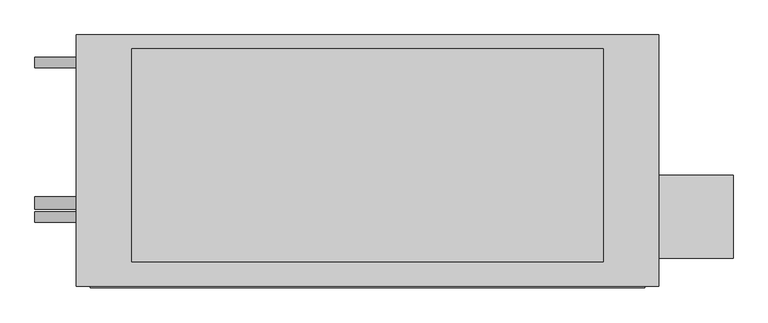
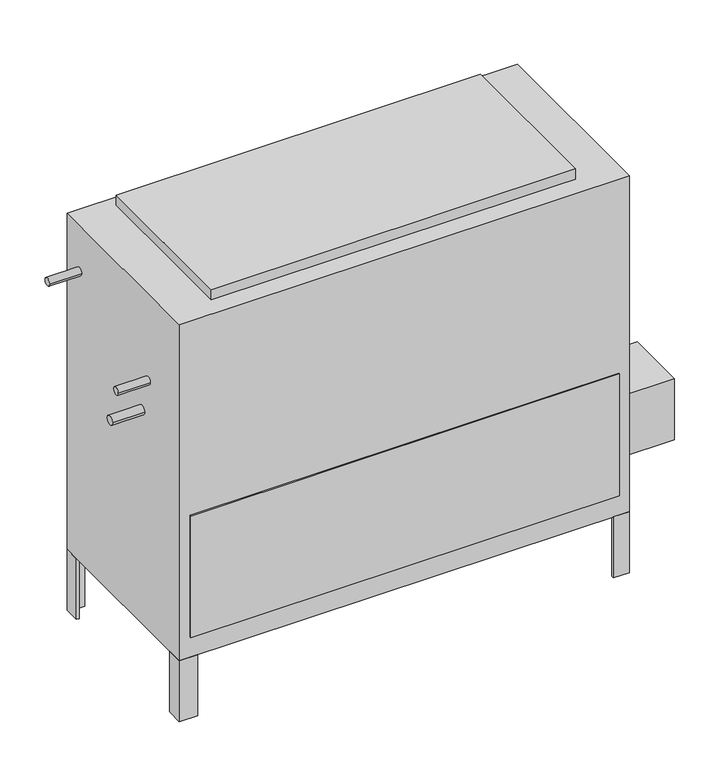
"""IFC4 building model written with IfcOpenShell, lengths in millimetres: proxy geometry, Concealed_High_Capacity_Vertical_Fan_Coil_Unit_-_42DDA_-_CARRIER_-_2-Pipe_Cool-EHeat_LH_2022 : Size 14 - 277v/60Hz/1Ph - 6 Row 10.0kW."""

import ifcopenshell
import ifcopenshell.guid

model = None  # the IFC model being written
_history = None  # IfcOwnerHistory: only IFC2X3 demands one
_inside = {}  # id of a spatial element -> (the spatial element, [elements in it])
_under = {}  # id of a project, library or spatial element -> (it, [spatial elements below it])
_declared = {}  # id of a project -> (the project, [libraries it declares])
_typed = {}  # id of a type object -> (the type object, [elements of that type])
_made_of = {}  # id of a material, layer set ... -> (it, [elements and type objects made of it])


def new_model(schema):
    """Start an empty IFC model of exactly this schema.

    Asked for "IFC4X3", IfcOpenShell would pick the latest addendum, in which some entities
    have other attributes; the version numbers below select the first issue.
    IFC2X3 requires an IfcOwnerHistory on every rooted entity: one is made here for all.
    """
    global model, _history
    if schema == "IFC4X3":
        model = ifcopenshell.file(schema_version=(4, 3, 0, 0))
    else:
        model = ifcopenshell.file(schema=schema)
    _inside.clear()
    _under.clear()
    _declared.clear()
    _typed.clear()
    _made_of.clear()
    _history = None
    if model.schema == "IFC2X3":
        org = make("IfcOrganization", Name="unknown")
        user = make(
            "IfcPersonAndOrganization",
            ThePerson=make("IfcPerson", FamilyName="unknown"),
            TheOrganization=org,
        )
        app = make(
            "IfcApplication",
            ApplicationDeveloper=org,
            Version="unknown",
            ApplicationFullName="unknown",
            ApplicationIdentifier="unknown",
        )
        _history = make(
            "IfcOwnerHistory",
            OwningUser=user,
            OwningApplication=app,
            ChangeAction="ADDED",
            CreationDate=0,
        )
    return model


def make(cls, **values):
    """One entity of the class cls with the attributes given. An attribute that is None is left unset."""
    return model.create_entity(
        cls, **{name: value for name, value in values.items() if value is not None}
    )


def rooted(cls, **values):
    """An entity with a GlobalId (a new one), such as an element, a storey or a relation."""
    return make(cls, GlobalId=ifcopenshell.guid.new(), OwnerHistory=_history, **values)


def si_unit(unit_type, name, prefix=None):
    """IfcSIUnit, for example si_unit("LENGTHUNIT", "METRE", prefix="MILLI")."""
    return make("IfcSIUnit", UnitType=unit_type, Prefix=prefix, Name=name)


def assignment(units):
    """IfcUnitAssignment: the units of a project."""
    return None if units is None else make("IfcUnitAssignment", Units=units)


def point(xyz):
    """IfcCartesianPoint."""
    return None if xyz is None else make("IfcCartesianPoint", Coordinates=xyz)


def direction(xyz):
    """IfcDirection."""
    return None if xyz is None else make("IfcDirection", DirectionRatios=xyz)


def frame(location, z_axis=None, x_axis=None):
    """IfcAxis2Placement3D, a coordinate frame: its origin and axes. An axis left out is left unset."""
    return make(
        "IfcAxis2Placement3D",
        Location=point(location),
        Axis=direction(z_axis),
        RefDirection=direction(x_axis),
    )


def frame_2d(location, x_axis=None):
    """IfcAxis2Placement2D, a coordinate frame in the plane: its origin and x axis."""
    return make(
        "IfcAxis2Placement2D", Location=point(location), RefDirection=direction(x_axis)
    )


def origin():
    """The frame at (0, 0, 0) with its axes left unset."""
    return frame((0.0, 0.0, 0.0))


def origin_with_axes():
    """The frame at (0, 0, 0) with the z axis (0, 0, 1) and the x axis (1, 0, 0) written out."""
    return frame((0.0, 0.0, 0.0), z_axis=(0.0, 0.0, 1.0), x_axis=(1.0, 0.0, 0.0))


def place(relative_to, where):
    """IfcLocalPlacement: puts the frame where relative to a parent placement (None: the world)."""
    return make(
        "IfcLocalPlacement", PlacementRelTo=relative_to, RelativePlacement=where
    )


def context(
    kind, dimensions, precision=None, world=None, true_north=None, identifier=None
):
    """IfcGeometricRepresentationContext, for example the 3D "Model" context."""
    return make(
        "IfcGeometricRepresentationContext",
        ContextIdentifier=identifier,
        ContextType=kind,
        CoordinateSpaceDimension=dimensions,
        Precision=precision,
        WorldCoordinateSystem=world,
        TrueNorth=true_north,
    )


def project(units=None, contexts=None):
    """IfcProject with its units and contexts."""
    return rooted(
        "IfcProject",
        Name="project",
        RepresentationContexts=contexts,
        UnitsInContext=assignment(units),
    )


def spatial(cls, under=None, at=None, **own):
    """A site, building, storey or space (cls), placed at a placement, below another one or the project."""
    s = rooted(cls, ObjectPlacement=at, **own)
    if under is not None:
        _under.setdefault(under.id(), (under, []))[1].append(s)
    return s


def polyline(points):
    """IfcPolyline through the points."""
    return make("IfcPolyline", Points=[point(p) for p in points])


def circle_curve(where, radius):
    """IfcCircle in the frame where."""
    return make("IfcCircle", Position=where, Radius=radius)


def trimmed(basis, trim1, trim2, sense, master):
    """IfcTrimmedCurve: the piece of a basis curve between two trims."""
    return make(
        "IfcTrimmedCurve",
        BasisCurve=basis,
        Trim1=trim1,
        Trim2=trim2,
        SenseAgreement=sense,
        MasterRepresentation=master,
    )


def segment(curve, same_sense, transition):
    """IfcCompositeCurveSegment."""
    return make(
        "IfcCompositeCurveSegment",
        Transition=transition,
        SameSense=same_sense,
        ParentCurve=curve,
    )


def composite_curve(segments, self_intersect=None):
    """IfcCompositeCurve: segments joined end to end."""
    return make("IfcCompositeCurve", Segments=segments, SelfIntersect=self_intersect)


def outline(outer, holes=None, kind="AREA"):
    """IfcArbitraryClosedProfileDef: a profile drawn as a closed curve; with holes, ...WithVoids."""
    if holes is None:
        return make("IfcArbitraryClosedProfileDef", ProfileType=kind, OuterCurve=outer)
    return make(
        "IfcArbitraryProfileDefWithVoids",
        ProfileType=kind,
        OuterCurve=outer,
        InnerCurves=holes,
    )


def extrude(swept, where, along, depth):
    """IfcExtrudedAreaSolid: the profile swept, set in the frame where, extruded along a direction by depth."""
    return make(
        "IfcExtrudedAreaSolid",
        SweptArea=swept,
        Position=where,
        ExtrudedDirection=direction(along),
        Depth=depth,
    )


def shape(context_of_items, identifier, shape_type, items):
    """IfcShapeRepresentation: the items that make up one representation, for example the "Body"."""
    return make(
        "IfcShapeRepresentation",
        ContextOfItems=context_of_items,
        RepresentationIdentifier=identifier,
        RepresentationType=shape_type,
        Items=items,
    )


def source(mapping_origin, context_of_items, identifier, shape_type, items):
    """IfcRepresentationMap: a shape defined once, which mapped items show again and again."""
    return make(
        "IfcRepresentationMap",
        MappingOrigin=mapping_origin,
        MappedRepresentation=shape(context_of_items, identifier, shape_type, items),
    )


def transform(
    local_origin,
    x_axis=None,
    y_axis=None,
    z_axis=None,
    scale=None,
    scale2=None,
    scale3=None,
    uniform=True,
):
    """IfcCartesianTransformationOperator3D, or its non-uniform kind. x_axis, y_axis, z_axis: its Axis1, 2, 3."""
    if uniform:
        return make(
            "IfcCartesianTransformationOperator3D",
            Axis1=direction(x_axis),
            Axis2=direction(y_axis),
            LocalOrigin=point(local_origin),
            Scale=scale,
            Axis3=direction(z_axis),
        )
    return make(
        "IfcCartesianTransformationOperator3DnonUniform",
        Axis1=direction(x_axis),
        Axis2=direction(y_axis),
        LocalOrigin=point(local_origin),
        Scale=scale,
        Axis3=direction(z_axis),
        Scale2=scale2,
        Scale3=scale3,
    )


def mapped(mapping_source, mapping_target):
    """IfcMappedItem: shows the shape of a source again, moved by a transform."""
    return make(
        "IfcMappedItem", MappingSource=mapping_source, MappingTarget=mapping_target
    )


def made_of(thing, what):
    """Note that an element or type object is made of a material, layer set ...; save() writes the relation."""
    if what is not None:
        _made_of.setdefault(what.id(), (what, []))[1].append(thing)
    return thing


def element(
    cls,
    number,
    at=None,
    inside=None,
    cuts=None,
    type_object=None,
    material=None,
    context=None,
    identifier="Body",
    shape_type=None,
    held_by="IfcProductDefinitionShape",
    body=None,
    shapes=None,
    **own,
):
    """One element of the class cls, such as IfcWall. Its Tag is "e" and its number.

    at: its placement. inside: the storey or other place that contains it. cuts: it is an
    opening in that element (IfcRelVoidsElement). A single representation is given by context,
    identifier, shape_type and body (its items); several are given by shapes. held_by: the class
    of the entity that holds the representations. save() writes the other relations.
    """
    e = rooted(cls, Tag="e%d" % number, ObjectPlacement=at, **own)
    if body is not None:
        shapes = [shape(context, identifier, shape_type, body)]
    if shapes is not None:
        e.Representation = make(held_by, Representations=shapes)
    if inside is not None:
        _inside.setdefault(inside.id(), (inside, []))[1].append(e)
    if cuts is not None:
        rooted(
            "IfcRelVoidsElement", RelatingBuildingElement=cuts, RelatedOpeningElement=e
        )
    if type_object is not None:
        _typed.setdefault(type_object.id(), (type_object, []))[1].append(e)
    return made_of(e, material)


def aggregate(whole, parts):
    """IfcRelAggregates: a whole, such as a stair, and the parts it consists of."""
    return rooted("IfcRelAggregates", RelatingObject=whole, RelatedObjects=parts)


def save(model, path):
    """Write the relations noted so far, then the file.

    IfcRelAggregates (storeys below a building ...), IfcRelContainedInSpatialStructure (elements
    in a storey), IfcRelDefinesByType, IfcRelAssociatesMaterial and IfcRelDeclares: one each for
    every whole, place, type object, material and project.
    """
    for whole, parts in _under.values():
        aggregate(whole, parts)
    for where, things in _inside.values():
        rooted(
            "IfcRelContainedInSpatialStructure",
            RelatedElements=things,
            RelatingStructure=where,
        )
    for kind, things in _typed.values():
        rooted("IfcRelDefinesByType", RelatedObjects=things, RelatingType=kind)
    for what, things in _made_of.values():
        rooted("IfcRelAssociatesMaterial", RelatedObjects=things, RelatingMaterial=what)
    for by, libraries in _declared.values():
        rooted("IfcRelDeclares", RelatingContext=by, RelatedDefinitions=libraries)
    model.write(path)


def mechanical_equipment_6d55c416(model_context):
    return source(origin(), model_context, "Body", "SweptSolid", [
        extrude(outline(polyline([(685.8, -417.5125), (685.8, -265.1125), (822.325, -265.1125), (822.325, -417.5125), (685.8, -417.5125)])), frame((0.0, 0.0, 101.6), z_axis=(0.0, 0.0, 1.0), x_axis=(1.0, 0.0, 0.0)), (0.0, 0.0, 1.0), 152.4),
        extrude(outline(polyline([(685.8, -46.0375), (679.45, -46.0375), (679.45, -14.2875), (647.7, -14.2875), (647.7, -7.9375), (685.8, -7.9375), (685.8, -46.0375)])), frame((0.0, 0.0, -152.4), z_axis=(0.0, 0.0, 1.0), x_axis=(1.0, 0.0, 0.0)), (0.0, 0.0, 1.0), 152.4),
        extrude(outline(polyline([(-342.9, -7.9375), (-342.9, -14.2875), (-374.65, -14.2875), (-374.65, -46.0375), (-381.0, -46.0375), (-381.0, -7.9375), (-342.9, -7.9375)])), frame((0.0, 0.0, -152.4), z_axis=(0.0, 0.0, 1.0), x_axis=(1.0, 0.0, 0.0)), (0.0, 0.0, 1.0), 152.4),
        extrude(outline(polyline([(647.7, -468.3125), (647.7, -461.9625), (679.45, -461.9625), (679.45, -430.2125), (685.8, -430.2125), (685.8, -468.3125), (647.7, -468.3125)])), frame((0.0, 0.0, -152.4), z_axis=(0.0, 0.0, 1.0), x_axis=(1.0, 0.0, 0.0)), (0.0, 0.0, 1.0), 152.4),
        extrude(outline(polyline([(-381.0, -428.1199163), (-374.65, -428.1199163), (-374.65, -461.9625), (-337.5318533, -461.9625), (-337.5318533, -468.3125), (-381.0, -468.3125), (-381.0, -428.1199163)])), frame((0.0, 0.0, -152.4), z_axis=(0.0, 0.0, 1.0), x_axis=(1.0, 0.0, 0.0)), (0.0, 0.0, 1.0), 152.4),
        extrude(outline(polyline([(584.2, -33.3375), (584.2, -423.8625), (-279.4, -423.8625), (-279.4, -33.3375), (584.2, -33.3375)])), frame((0.0, 0.0, 841.375), z_axis=(0.0, 0.0, 1.0), x_axis=(1.0, 0.0, 0.0)), (0.0, 0.0, 1.0), 25.4),
        extrude(outline(polyline([(660.4, -471.4875), (-355.6, -471.4875), (-355.6, -468.3125), (660.4, -468.3125), (660.4, -471.4875)])), frame((0.0, 0.0, 50.8), z_axis=(0.0, 0.0, 1.0), x_axis=(1.0, 0.0, 0.0)), (0.0, 0.0, 1.0), 304.8),
        extrude(outline(composite_curve([segment(trimmed(circle_curve(frame_2d((-58.7375, 727.075)), 9.525), [point((-68.2625, 727.075))], [point((-49.2125, 727.075))], False, "CARTESIAN"), True, "CONTINUOUS"), segment(trimmed(circle_curve(frame_2d((-58.7375, 727.075)), 9.525), [point((-49.2125, 727.075))], [point((-68.2625, 727.075))], False, "CARTESIAN"), True, "CONTINUOUS")], self_intersect=False)), frame((-457.2, 0.0, 0.0), z_axis=(1.0, 0.0, 0.0), x_axis=(0.0, 1.0, 0.0)), (0.0, 0.0, 1.0), 76.2),
        extrude(outline(composite_curve([segment(trimmed(circle_curve(frame_2d((-341.3125, 625.475)), 9.525), [point((-350.8375, 625.475))], [point((-331.7875, 625.475))], False, "CARTESIAN"), True, "CONTINUOUS"), segment(trimmed(circle_curve(frame_2d((-341.3125, 625.475)), 9.525), [point((-331.7875, 625.475))], [point((-350.8375, 625.475))], False, "CARTESIAN"), True, "CONTINUOUS")], self_intersect=False)), frame((-457.2, 0.0, 0.0), z_axis=(1.0, 0.0, 0.0), x_axis=(0.0, 1.0, 0.0)), (0.0, 0.0, 1.0), 76.2),
        extrude(outline(composite_curve([segment(trimmed(circle_curve(frame_2d((-315.9125, 536.575)), 11.1125), [point((-327.025, 536.575))], [point((-304.8, 536.575))], False, "CARTESIAN"), True, "CONTINUOUS"), segment(trimmed(circle_curve(frame_2d((-315.9125, 536.575)), 11.1125), [point((-304.8, 536.575))], [point((-327.025, 536.575))], False, "CARTESIAN"), True, "CONTINUOUS")], self_intersect=False)), frame((-457.2, 0.0, 0.0), z_axis=(1.0, 0.0, 0.0), x_axis=(0.0, 1.0, 0.0)), (0.0, 0.0, 1.0), 76.2),
        extrude(outline(polyline([(685.8, -7.9375), (685.8, -468.3125), (-381.0, -468.3125), (-381.0, -7.9375), (685.8, -7.9375)])), origin_with_axes(), (0.0, 0.0, 1.0), 841.375),
    ])


if __name__ == "__main__":
    model = new_model("IFC4")
    model_context = context("Model", 3, world=origin())
    ifc_project = project(units=[si_unit("LENGTHUNIT", "METRE", prefix="MILLI")], contexts=[model_context])
    site = spatial("IfcSite", under=ifc_project)
    building = spatial("IfcBuilding", under=site)
    placement = place(None, origin())
    mechanical_equipment_shape = mechanical_equipment_6d55c416(model_context)
    element("IfcBuildingElementProxy", 1, Name="Concealed_High_Capacity_Vertical_Fan_Coil_Unit_-_42DDA_-_CARRIER_-_2-Pipe_Cool-EHeat_LH_2022 : Size 14 - 277v/60Hz/1Ph - 6 Row 10.0kW", ObjectType="Concealed_High_Capacity_Vertical_Fan_Coil_Unit_-_42DDA_-_CARRIER_-_2-Pipe_Cool-EHeat_LH_2022 : Size 14 - 277v/60Hz/1Ph - 6 Row 10.0kW", at=placement, inside=building, context=model_context, shape_type="MappedRepresentation", body=[
        mapped(mechanical_equipment_shape, transform((0.0, 0.0, 0.0), x_axis=(1.0, 0.0, 0.0), y_axis=(0.0, 1.0, 0.0), z_axis=(0.0, 0.0, 1.0))),
    ])
    save(model, "model.ifc")
